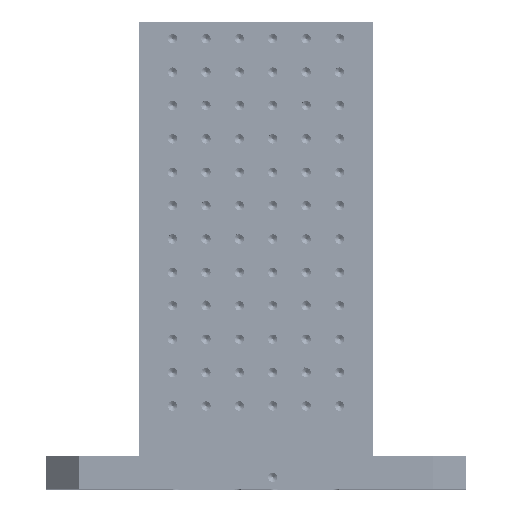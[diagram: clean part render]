
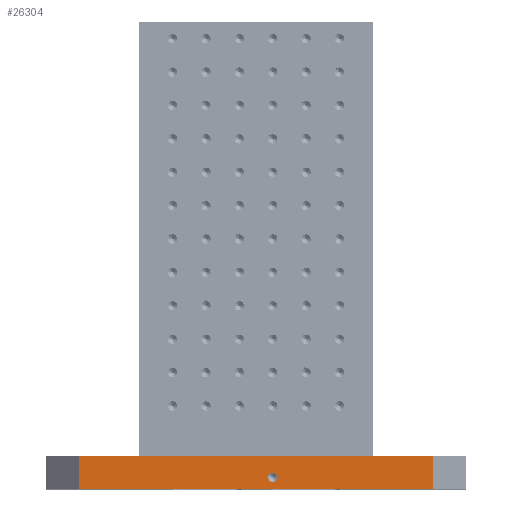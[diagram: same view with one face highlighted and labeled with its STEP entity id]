
A CAD part, top view. The second image highlights one B-rep face of the part: STEP entity #26304.
In plain terms, the highlighted planar face has unit normal (0, 0, 1).
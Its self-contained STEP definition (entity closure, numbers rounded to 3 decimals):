
#5=DIRECTION('',(1.,0.,0.));
#6=VECTOR('',#5,530.);
#7=CARTESIAN_POINT('',(-265.,-25.,315.));
#8=LINE('',#7,#6);
#221=DIRECTION('',(0.,-1.,0.));
#222=VECTOR('',#221,50.);
#223=CARTESIAN_POINT('',(-265.,25.,315.));
#224=LINE('',#223,#222);
#225=DIRECTION('',(0.,-1.,0.));
#226=VECTOR('',#225,50.);
#227=CARTESIAN_POINT('',(265.,25.,315.));
#228=LINE('',#227,#226);
#229=CARTESIAN_POINT('',(25.,-7.,315.));
#230=DIRECTION('',(0.,0.,1.));
#231=DIRECTION('',(-1.,0.,0.));
#232=AXIS2_PLACEMENT_3D('',#229,#230,#231);
#234=CARTESIAN_POINT('',(25.,-7.,315.));
#235=DIRECTION('',(0.,0.,1.));
#236=DIRECTION('',(1.,0.,0.));
#237=AXIS2_PLACEMENT_3D('',#234,#235,#236);
#283=DIRECTION('',(1.,0.,0.));
#284=VECTOR('',#283,530.);
#285=CARTESIAN_POINT('',(-265.,25.,315.));
#286=LINE('',#285,#284);
#20297=CARTESIAN_POINT('',(-265.,-25.,315.));
#20299=VERTEX_POINT('',#20297);
#20303=CARTESIAN_POINT('',(-265.,25.,315.));
#20304=VERTEX_POINT('',#20303);
#20322=CARTESIAN_POINT('',(265.,-25.,315.));
#20324=VERTEX_POINT('',#20322);
#20325=CARTESIAN_POINT('',(265.,25.,315.));
#20326=VERTEX_POINT('',#20325);
#20395=CARTESIAN_POINT('',(18.,-7.,315.));
#20396=CARTESIAN_POINT('',(32.,-7.,315.));
#20397=VERTEX_POINT('',#20395);
#20398=VERTEX_POINT('',#20396);
#26286=CARTESIAN_POINT('',(-315.,-25.,315.));
#26287=DIRECTION('',(0.,0.,1.));
#26288=DIRECTION('',(1.,0.,0.));
#26289=AXIS2_PLACEMENT_3D('',#26286,#26287,#26288);
#26290=PLANE('',#26289);
#26291=ORIENTED_EDGE('',*,*,#26185,.F.);
#26293=ORIENTED_EDGE('',*,*,#26292,.T.);
#26294=ORIENTED_EDGE('',*,*,#26278,.T.);
#26295=ORIENTED_EDGE('',*,*,#26038,.F.);
#26296=EDGE_LOOP('',(#26291,#26293,#26294,#26295));
#26297=FACE_OUTER_BOUND('',#26296,.F.);
#26299=ORIENTED_EDGE('',*,*,#26298,.T.);
#26301=ORIENTED_EDGE('',*,*,#26300,.T.);
#26302=EDGE_LOOP('',(#26299,#26301));
#26303=FACE_BOUND('',#26302,.F.);
#26304=ADVANCED_FACE('',(#26297,#26303),#26290,.T.);
#233=CIRCLE('',#232,7.);
#238=CIRCLE('',#237,7.);
#26038=EDGE_CURVE('',#20299,#20324,#8,.T.);
#26185=EDGE_CURVE('',#20304,#20299,#224,.T.);
#26278=EDGE_CURVE('',#20326,#20324,#228,.T.);
#26292=EDGE_CURVE('',#20304,#20326,#286,.T.);
#26298=EDGE_CURVE('',#20397,#20398,#233,.T.);
#26300=EDGE_CURVE('',#20398,#20397,#238,.T.);
